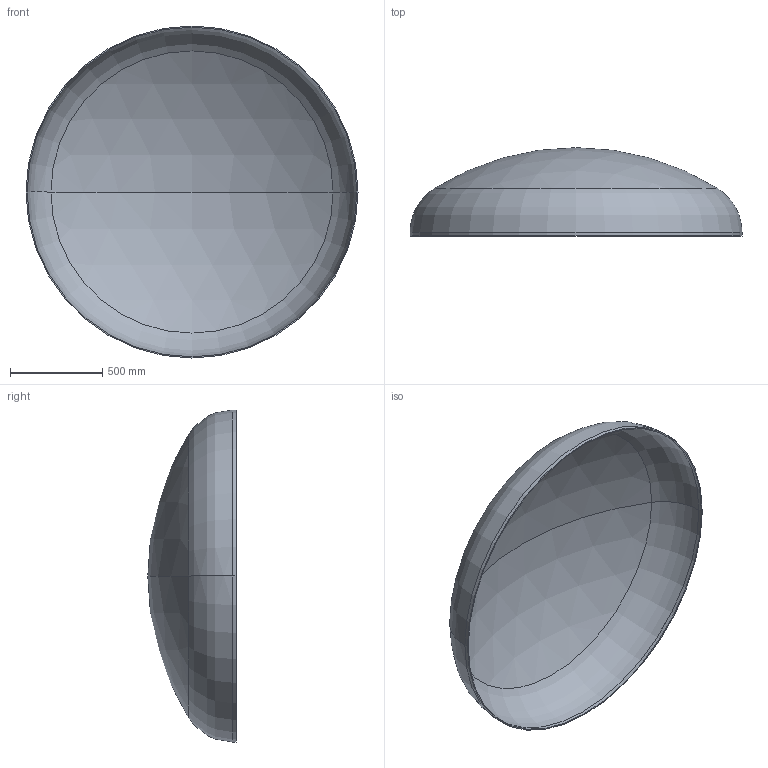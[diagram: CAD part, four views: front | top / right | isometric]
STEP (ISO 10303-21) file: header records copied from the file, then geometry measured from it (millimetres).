
FILE_DESCRIPTION (( 'STEP AP203' ), '1' );
FILE_NAME ('DIN 28013 Korbbogenform_-_Boden DIN 28013 - 1800 x 20 - I - s=6.step', '2016-07-01T12:14:35', ( '' ), ( '' ), 'SwSTEP 2.0', 'SolidWorks 2013', '' );
FILE_SCHEMA (( 'CONFIG_CONTROL_DESIGN' ));
Length unit declared in the file: millimetre
Products named in the file (1): DIN 28013 Korbbogenform_-_Boden DIN 28013 - 1800 x 20 - I - s=6
Bounding box: 1800 x 479.05 x 1800 mm (x, y, z)
Volume: 21698356.6 mm3; surface area: 7266674.1 mm2
Topology: 1 solids, 1 shells, 13 faces, 24 edges, 14 vertices
Faces by surface type: torus 4, cylinder 4, sphere 4, plane 1
Entity records: 407 total; most frequent: DIRECTION 72, CARTESIAN_POINT 52, ORIENTED_EDGE 48, AXIS2_PLACEMENT_3D 34, EDGE_CURVE 24, CIRCLE 20, VERTEX_POINT 14, EDGE_LOOP 14
